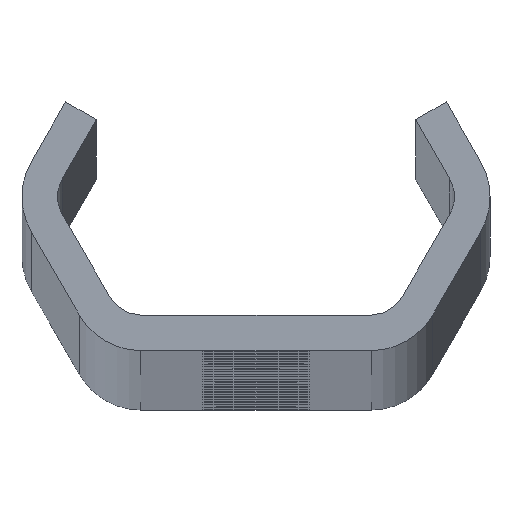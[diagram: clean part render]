
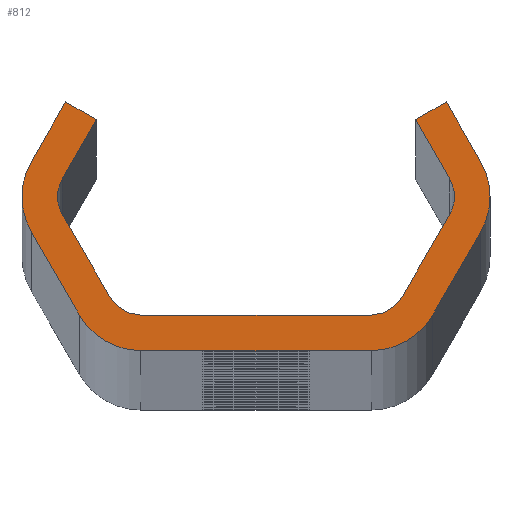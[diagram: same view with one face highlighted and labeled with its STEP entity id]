
A CAD part, top view. The second image highlights one B-rep face of the part: STEP entity #812.
In plain terms, the highlighted planar face has unit normal (0, 0, 1).
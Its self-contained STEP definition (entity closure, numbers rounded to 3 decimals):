
#812=ADVANCED_FACE('NONE',(#2266),#2267,.F.);
#2266=FACE_OUTER_BOUND('',#7374,.T.);
#2267=PLANE('',#7375);
#7374=EDGE_LOOP('',(#14950,#14951,#14952,#14953,#14954,#14955,#14956,#14957,#14958,#14959,#14960,#14961,#14962,#14963,#14964,#14965,#14966,#14967,#14968,#14969,#14970,#14971,#14972,#14973));
#7375=AXIS2_PLACEMENT_3D('',#14974,#14975,#14976);
#14950=ORIENTED_EDGE('',*,*,#19965,.T.);
#14951=ORIENTED_EDGE('',*,*,#20012,.T.);
#14952=ORIENTED_EDGE('',*,*,#19550,.T.);
#14953=ORIENTED_EDGE('',*,*,#19967,.T.);
#14954=ORIENTED_EDGE('',*,*,#20013,.T.);
#14955=ORIENTED_EDGE('',*,*,#19971,.T.);
#14956=ORIENTED_EDGE('',*,*,#20014,.T.);
#14957=ORIENTED_EDGE('',*,*,#19557,.T.);
#14958=ORIENTED_EDGE('',*,*,#20015,.T.);
#14959=ORIENTED_EDGE('',*,*,#19183,.T.);
#14960=ORIENTED_EDGE('',*,*,#19560,.T.);
#14961=ORIENTED_EDGE('',*,*,#19566,.T.);
#14962=ORIENTED_EDGE('',*,*,#19569,.T.);
#14963=ORIENTED_EDGE('',*,*,#19547,.T.);
#14964=ORIENTED_EDGE('',*,*,#20016,.T.);
#14965=ORIENTED_EDGE('',*,*,#19571,.T.);
#14966=ORIENTED_EDGE('',*,*,#20017,.T.);
#14967=ORIENTED_EDGE('',*,*,#19578,.T.);
#14968=ORIENTED_EDGE('',*,*,#20018,.T.);
#14969=ORIENTED_EDGE('',*,*,#19952,.T.);
#14970=ORIENTED_EDGE('',*,*,#20019,.T.);
#14971=ORIENTED_EDGE('',*,*,#19178,.T.);
#14972=ORIENTED_EDGE('',*,*,#19955,.T.);
#14973=ORIENTED_EDGE('',*,*,#19961,.T.);
#14974=CARTESIAN_POINT('',(0.0,0.0,2880.0));
#14975=DIRECTION('',(0.0,0.0,-1.0));
#14976=DIRECTION('',(0.0,-1.0,0.0));
#19178=EDGE_CURVE('NONE',#21372,#21376,#21378,.T.);
#19183=EDGE_CURVE('NONE',#21381,#21385,#21387,.T.);
#19547=EDGE_CURVE('NONE',#22042,#22040,#22043,.T.);
#19550=EDGE_CURVE('NONE',#22046,#22047,#22048,.T.);
#19557=EDGE_CURVE('NONE',#22060,#22058,#22061,.T.);
#19560=EDGE_CURVE('NONE',#21385,#22064,#22065,.T.);
#19566=EDGE_CURVE('NONE',#22064,#22072,#22074,.T.);
#19569=EDGE_CURVE('NONE',#22072,#22042,#22077,.T.);
#19571=EDGE_CURVE('NONE',#22079,#22080,#22081,.T.);
#19578=EDGE_CURVE('NONE',#22093,#22091,#22094,.T.);
#19952=EDGE_CURVE('NONE',#22786,#22784,#22787,.T.);
#19955=EDGE_CURVE('NONE',#21376,#22790,#22791,.T.);
#19961=EDGE_CURVE('NONE',#22790,#22798,#22800,.T.);
#19965=EDGE_CURVE('NONE',#22798,#22804,#22806,.T.);
#19967=EDGE_CURVE('NONE',#22047,#22808,#22809,.T.);
#19971=EDGE_CURVE('NONE',#22814,#22815,#22816,.T.);
#20012=EDGE_CURVE('NONE',#22804,#22046,#22859,.T.);
#20013=EDGE_CURVE('NONE',#22808,#22814,#22860,.T.);
#20014=EDGE_CURVE('NONE',#22815,#22060,#22861,.T.);
#20015=EDGE_CURVE('NONE',#22058,#21381,#22862,.T.);
#20016=EDGE_CURVE('NONE',#22040,#22079,#22863,.T.);
#20017=EDGE_CURVE('NONE',#22080,#22093,#22864,.T.);
#20018=EDGE_CURVE('NONE',#22091,#22786,#22865,.T.);
#20019=EDGE_CURVE('NONE',#22784,#21372,#22866,.T.);
#21372=VERTEX_POINT('',#24624);
#21376=VERTEX_POINT('NONE',#24629);
#21378=CIRCLE('',#24632,3.0);
#21381=VERTEX_POINT('',#24635);
#21385=VERTEX_POINT('NONE',#24640);
#21387=CIRCLE('',#24643,6.0);
#22040=VERTEX_POINT('NONE',#28518);
#22042=VERTEX_POINT('NONE',#28521);
#22043=CIRCLE('',#28522,3.0);
#22046=VERTEX_POINT('NONE',#28526);
#22047=VERTEX_POINT('NONE',#28527);
#22048=CIRCLE('',#28528,6.0);
#22058=VERTEX_POINT('NONE',#28541);
#22060=VERTEX_POINT('NONE',#28544);
#22061=LINE('',#28545,#28546);
#22064=VERTEX_POINT('NONE',#28550);
#22065=LINE('',#28551,#28552);
#22072=VERTEX_POINT('NONE',#28562);
#22074=LINE('',#28565,#28566);
#22077=LINE('',#28570,#28571);
#22079=VERTEX_POINT('NONE',#28573);
#22080=VERTEX_POINT('NONE',#28574);
#22081=LINE('',#28575,#28576);
#22091=VERTEX_POINT('NONE',#28590);
#22093=VERTEX_POINT('NONE',#28593);
#22094=LINE('',#28594,#28595);
#22784=VERTEX_POINT('NONE',#31087);
#22786=VERTEX_POINT('NONE',#31090);
#22787=LINE('',#31091,#31092);
#22790=VERTEX_POINT('NONE',#31096);
#22791=LINE('',#31097,#31098);
#22798=VERTEX_POINT('NONE',#31108);
#22800=LINE('',#31111,#31112);
#22804=VERTEX_POINT('NONE',#31117);
#22806=LINE('',#31120,#31121);
#22808=VERTEX_POINT('NONE',#31123);
#22809=LINE('',#31124,#31125);
#22814=VERTEX_POINT('NONE',#31132);
#22815=VERTEX_POINT('NONE',#31133);
#22816=LINE('',#31134,#31135);
#22859=CIRCLE('',#31181,6.0);
#22860=CIRCLE('',#31182,6.0);
#22861=CIRCLE('',#31183,6.0);
#22862=CIRCLE('',#31184,6.0);
#22863=CIRCLE('',#31185,3.0);
#22864=CIRCLE('',#31186,3.0);
#22865=CIRCLE('',#31187,3.0);
#22866=CIRCLE('',#31188,3.0);
#24624=CARTESIAN_POINT('',(-16.764,0.,2880.0));
#24629=CARTESIAN_POINT('',(-16.362,1.5,2880.0));
#24632=AXIS2_PLACEMENT_3D('',#36999,#37000,#37001);
#24635=CARTESIAN_POINT('',(19.764,0.,2880.0));
#24640=CARTESIAN_POINT('',(18.96,3.,2880.0));
#24643=AXIS2_PLACEMENT_3D('',#37007,#37008,#37009);
#28518=CARTESIAN_POINT('',(16.764,0.,2880.0));
#28521=CARTESIAN_POINT('',(16.362,1.5,2880.0));
#28522=AXIS2_PLACEMENT_3D('',#37374,#37375,#37376);
#28526=CARTESIAN_POINT('',(-19.764,0.,2880.0));
#28527=CARTESIAN_POINT('',(-18.96,-3.,2880.0));
#28528=AXIS2_PLACEMENT_3D('',#37378,#37379,#37380);
#28541=CARTESIAN_POINT('',(18.96,-3.,2880.0));
#28544=CARTESIAN_POINT('',(14.919,-10.,2880.0));
#28545=CARTESIAN_POINT('',(20.692,0.,2880.0));
#28546=VECTOR('',#37388,1000.0);
#28550=CARTESIAN_POINT('',(16.074,8.,2880.0));
#28551=CARTESIAN_POINT('',(16.074,8.,2880.0));
#28552=VECTOR('',#37390,1000.0);
#28562=CARTESIAN_POINT('',(13.475,6.5,2880.0));
#28565=CARTESIAN_POINT('',(13.475,6.5,2880.0));
#28566=VECTOR('',#37395,1000.0);
#28570=CARTESIAN_POINT('',(17.228,0.,2880.0));
#28571=VECTOR('',#37397,1000.0);
#28573=CARTESIAN_POINT('',(16.362,-1.5,2880.0));
#28574=CARTESIAN_POINT('',(12.321,-8.5,2880.0));
#28575=CARTESIAN_POINT('',(11.455,-10.0,2880.0));
#28576=VECTOR('',#37398,1000.0);
#28590=CARTESIAN_POINT('',(-9.723,-10.0,2880.0));
#28593=CARTESIAN_POINT('',(9.723,-10.0,2880.0));
#28594=CARTESIAN_POINT('',(-11.455,-10.0,2880.0));
#28595=VECTOR('',#37404,1000.0);
#31087=CARTESIAN_POINT('',(-16.362,-1.5,2880.0));
#31090=CARTESIAN_POINT('',(-12.321,-8.5,2880.0));
#31091=CARTESIAN_POINT('',(-17.228,0.,2880.0));
#31092=VECTOR('',#37813,1000.0);
#31096=CARTESIAN_POINT('',(-13.475,6.5,2880.0));
#31097=CARTESIAN_POINT('',(-13.475,6.5,2880.0));
#31098=VECTOR('',#37815,1000.0);
#31108=CARTESIAN_POINT('',(-16.074,8.,2880.0));
#31111=CARTESIAN_POINT('',(-13.475,6.5,2880.0));
#31112=VECTOR('',#37820,1000.0);
#31117=CARTESIAN_POINT('',(-18.96,3.,2880.0));
#31120=CARTESIAN_POINT('',(-16.074,8.,2880.0));
#31121=VECTOR('',#37823,1000.0);
#31123=CARTESIAN_POINT('',(-14.919,-10.,2880.0));
#31124=CARTESIAN_POINT('',(-20.692,0.,2880.0));
#31125=VECTOR('',#37824,1000.0);
#31132=CARTESIAN_POINT('',(-9.723,-13.0,2880.0));
#31133=CARTESIAN_POINT('',(9.723,-13.0,2880.0));
#31134=CARTESIAN_POINT('',(-13.187,-13.0,2880.0));
#31135=VECTOR('',#37827,1000.0);
#31181=AXIS2_PLACEMENT_3D('',#37939,#37940,#37941);
#31182=AXIS2_PLACEMENT_3D('',#37942,#37943,#37944);
#31183=AXIS2_PLACEMENT_3D('',#37945,#37946,#37947);
#31184=AXIS2_PLACEMENT_3D('',#37948,#37949,#37950);
#31185=AXIS2_PLACEMENT_3D('',#37951,#37952,#37953);
#31186=AXIS2_PLACEMENT_3D('',#37954,#37955,#37956);
#31187=AXIS2_PLACEMENT_3D('',#37957,#37958,#37959);
#31188=AXIS2_PLACEMENT_3D('',#37960,#37961,#37962);
#36999=CARTESIAN_POINT('',(-13.764,0.,2880.0));
#37000=DIRECTION('',(0.0,0.0,-1.0));
#37001=DIRECTION('',(-1.0,0.0,0.0));
#37007=CARTESIAN_POINT('',(13.764,0.,2880.0));
#37008=DIRECTION('',(0.0,0.0,1.0));
#37009=DIRECTION('',(-1.0,0.0,0.0));
#37374=CARTESIAN_POINT('',(13.764,0.,2880.0));
#37375=DIRECTION('',(0.0,0.0,-1.0));
#37376=DIRECTION('',(-1.0,0.0,0.0));
#37378=CARTESIAN_POINT('',(-13.764,0.,2880.0));
#37379=DIRECTION('',(0.0,0.0,1.0));
#37380=DIRECTION('',(-1.0,0.0,0.0));
#37388=DIRECTION('',(0.5,0.866,-0.0));
#37390=DIRECTION('',(-0.5,0.866,-0.0));
#37395=DIRECTION('',(-0.866,-0.5,-0.0));
#37397=DIRECTION('',(0.5,-0.866,-0.0));
#37398=DIRECTION('',(-0.5,-0.866,-0.0));
#37404=DIRECTION('',(-1.0,0.,-0.0));
#37813=DIRECTION('',(-0.5,0.866,-0.0));
#37815=DIRECTION('',(0.5,0.866,-0.0));
#37820=DIRECTION('',(-0.866,0.5,0.0));
#37823=DIRECTION('',(-0.5,-0.866,0.0));
#37824=DIRECTION('',(0.5,-0.866,0.0));
#37827=DIRECTION('',(1.0,0.0,0.0));
#37939=CARTESIAN_POINT('',(-13.764,0.,2880.0));
#37940=DIRECTION('',(0.0,0.0,1.0));
#37941=DIRECTION('',(-1.0,0.0,0.0));
#37942=CARTESIAN_POINT('',(-9.723,-7.0,2880.0));
#37943=DIRECTION('',(0.0,0.0,1.0));
#37944=DIRECTION('',(-1.0,0.0,0.0));
#37945=CARTESIAN_POINT('',(9.723,-7.0,2880.0));
#37946=DIRECTION('',(0.0,0.0,1.0));
#37947=DIRECTION('',(-1.0,0.,0.0));
#37948=CARTESIAN_POINT('',(13.764,0.,2880.0));
#37949=DIRECTION('',(0.0,0.0,1.0));
#37950=DIRECTION('',(-1.0,0.0,0.0));
#37951=CARTESIAN_POINT('',(13.764,0.,2880.0));
#37952=DIRECTION('',(0.0,0.0,-1.0));
#37953=DIRECTION('',(-1.0,0.0,0.0));
#37954=CARTESIAN_POINT('',(9.723,-7.0,2880.0));
#37955=DIRECTION('',(0.0,0.0,-1.0));
#37956=DIRECTION('',(-1.0,0.0,0.0));
#37957=CARTESIAN_POINT('',(-9.723,-7.0,2880.0));
#37958=DIRECTION('',(0.0,0.0,-1.0));
#37959=DIRECTION('',(-1.0,0.0,0.0));
#37960=CARTESIAN_POINT('',(-13.764,0.,2880.0));
#37961=DIRECTION('',(0.0,0.0,-1.0));
#37962=DIRECTION('',(-1.0,0.0,0.0));
